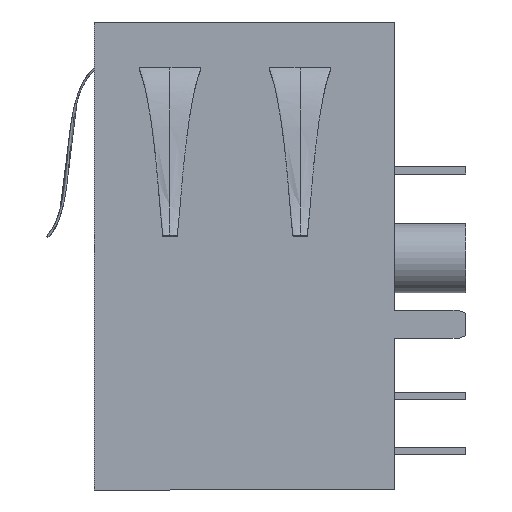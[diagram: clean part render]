
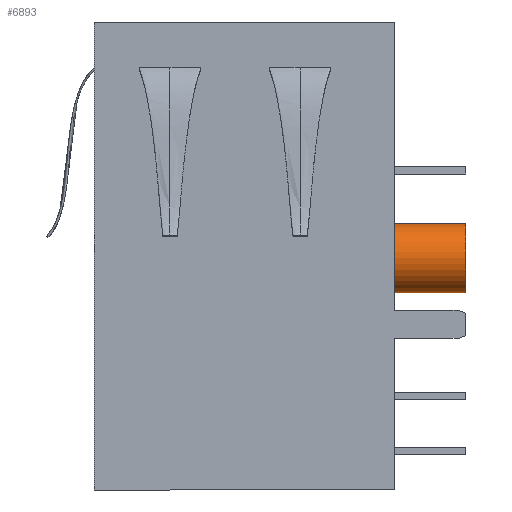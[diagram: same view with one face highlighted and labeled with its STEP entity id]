
A CAD part, left-side view. The second image highlights one B-rep face of the part: STEP entity #6893.
In plain terms, the highlighted cylindrical face has radius 1.6 mm (diameter 3.2 mm), a partial arc.
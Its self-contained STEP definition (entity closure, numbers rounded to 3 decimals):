
#498 = DIRECTION ( 'NONE',  ( 0., 1., 0. ) ) ;
#912 = CARTESIAN_POINT ( 'NONE',  ( -5.715, -3.3, 1.6 ) ) ;
#1658 = CIRCLE ( 'NONE', #13739, 1.6 ) ;
#1839 = VERTEX_POINT ( 'NONE', #912 ) ;
#2111 = CARTESIAN_POINT ( 'NONE',  ( -5.715, 0., 0. ) ) ;
#2271 = LINE ( 'NONE', #5610, #10223 ) ;
#2308 = EDGE_CURVE ( 'NONE', #9228, #12651, #12728, .T. ) ;
#2537 = AXIS2_PLACEMENT_3D ( 'NONE', #14640, #498, #8825 ) ;
#2848 = CARTESIAN_POINT ( 'NONE',  ( -5.715, -3.3, 0. ) ) ;
#3560 = CIRCLE ( 'NONE', #13632, 1.6 ) ;
#3736 = CARTESIAN_POINT ( 'NONE',  ( -5.715, -3.3, -1.6 ) ) ;
#4905 = FACE_OUTER_BOUND ( 'NONE', #11946, .T. ) ;
#5000 = CARTESIAN_POINT ( 'NONE',  ( -5.715, 0., -1.6 ) ) ;
#5610 = CARTESIAN_POINT ( 'NONE',  ( -5.715, -3.3, 1.6 ) ) ;
#6853 = DIRECTION ( 'NONE',  ( 0., 1., 0. ) ) ;
#6893 = ADVANCED_FACE ( 'NONE', ( #4905 ), #10827, .T. ) ;
#7183 = VERTEX_POINT ( 'NONE', #7429 ) ;
#7429 = CARTESIAN_POINT ( 'NONE',  ( -5.715, 0., 1.6 ) ) ;
#7431 = EDGE_CURVE ( 'NONE', #1839, #7183, #2271, .T. ) ;
#8038 = ORIENTED_EDGE ( 'NONE', *, *, #7431, .T. ) ;
#8259 = ORIENTED_EDGE ( 'NONE', *, *, #2308, .F. ) ;
#8376 = EDGE_CURVE ( 'NONE', #12651, #7183, #1658, .T. ) ;
#8728 = DIRECTION ( 'NONE',  ( 0., 0., 1. ) ) ;
#8825 = DIRECTION ( 'NONE',  ( 0., 0., 1. ) ) ;
#9228 = VERTEX_POINT ( 'NONE', #3736 ) ;
#9677 = ORIENTED_EDGE ( 'NONE', *, *, #13910, .T. ) ;
#10223 = VECTOR ( 'NONE', #10521, 1000. ) ;
#10521 = DIRECTION ( 'NONE',  ( 0., 1., 0. ) ) ;
#10827 = CYLINDRICAL_SURFACE ( 'NONE', #2537, 1.6 ) ;
#11180 = DIRECTION ( 'NONE',  ( 0., 1., 0. ) ) ;
#11946 = EDGE_LOOP ( 'NONE', ( #8259, #9677, #8038, #12460 ) ) ;
#12309 = CARTESIAN_POINT ( 'NONE',  ( -5.715, -3.3, -1.6 ) ) ;
#12460 = ORIENTED_EDGE ( 'NONE', *, *, #8376, .F. ) ;
#12540 = DIRECTION ( 'NONE',  ( 0., 0., 1. ) ) ;
#12651 = VERTEX_POINT ( 'NONE', #5000 ) ;
#12728 = LINE ( 'NONE', #12309, #13627 ) ;
#13627 = VECTOR ( 'NONE', #14494, 1000. ) ;
#13632 = AXIS2_PLACEMENT_3D ( 'NONE', #2848, #11180, #8728 ) ;
#13739 = AXIS2_PLACEMENT_3D ( 'NONE', #2111, #6853, #12540 ) ;
#13910 = EDGE_CURVE ( 'NONE', #9228, #1839, #3560, .T. ) ;
#14494 = DIRECTION ( 'NONE',  ( 0., 1., 0. ) ) ;
#14640 = CARTESIAN_POINT ( 'NONE',  ( -5.715, -3.3, 0. ) ) ;
